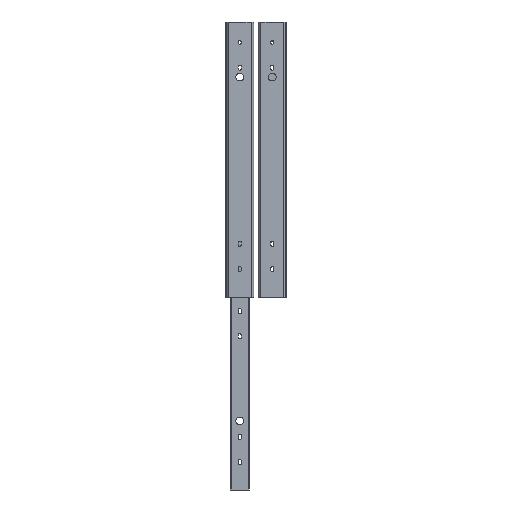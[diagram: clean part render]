
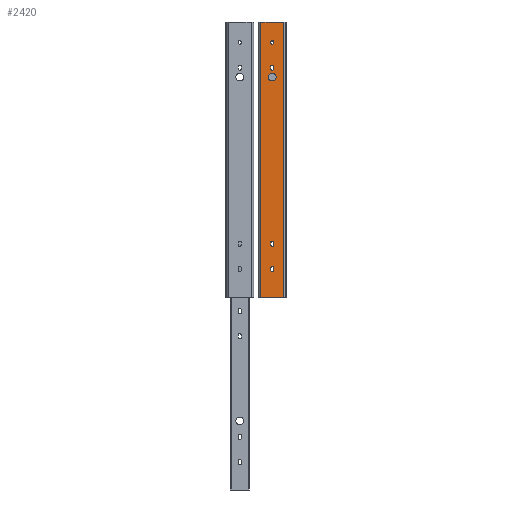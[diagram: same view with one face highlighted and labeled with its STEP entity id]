
A CAD part, front view. The second image highlights one B-rep face of the part: STEP entity #2420.
In plain terms, the highlighted planar face has unit normal (0, -1, 0).
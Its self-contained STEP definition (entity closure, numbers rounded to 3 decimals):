
#1138=CARTESIAN_POINT('',(-11.571,-7.153,-350.0));
#1139=VERTEX_POINT('',#1138);
#1140=CARTESIAN_POINT('',(17.429,-7.153,-350.0));
#1141=VERTEX_POINT('',#1140);
#1142=CARTESIAN_POINT('',(-11.571,-7.153,-350.0));
#1143=DIRECTION('',(1.0,0.0,0.0));
#1144=VECTOR('',#1143,29.0);
#1145=LINE('',#1142,#1144);
#1146=EDGE_CURVE('',#1139,#1141,#1145,.T.);
#1247=CARTESIAN_POINT('',(-11.571,-7.153,0.0));
#1248=VERTEX_POINT('',#1247);
#1249=CARTESIAN_POINT('',(-11.571,-7.153,0.0));
#1250=DIRECTION('',(0.0,0.0,-1.0));
#1251=VECTOR('',#1250,350.0);
#1252=LINE('',#1249,#1251);
#1253=EDGE_CURVE('',#1248,#1139,#1252,.T.);
#1482=CARTESIAN_POINT('',(17.429,-7.153,0.0));
#1483=VERTEX_POINT('',#1482);
#1490=CARTESIAN_POINT('',(17.429,-7.153,0.0));
#1491=DIRECTION('',(0.0,0.0,-1.0));
#1492=VECTOR('',#1491,350.0);
#1493=LINE('',#1490,#1492);
#1494=EDGE_CURVE('',#1483,#1141,#1493,.T.);
#1504=CARTESIAN_POINT('',(7.929,-7.153,-70.0));
#1505=VERTEX_POINT('',#1504);
#1506=CARTESIAN_POINT('',(2.929,-7.153,-70.0));
#1507=DIRECTION('',(0.0,1.0,0.0));
#1508=DIRECTION('',(-1.0,0.0,0.0));
#1509=AXIS2_PLACEMENT_3D('',#1506,#1507,#1508);
#1510=CIRCLE('',#1509,5.0);
#1511=EDGE_CURVE('',#1505,#1505,#1510,.T.);
#1532=CARTESIAN_POINT('',(0.779,-7.153,-315.1));
#1533=VERTEX_POINT('',#1532);
#1534=CARTESIAN_POINT('',(0.779,-7.153,-312.9));
#1535=VERTEX_POINT('',#1534);
#1536=CARTESIAN_POINT('',(0.779,-7.153,-315.1));
#1537=DIRECTION('',(0.0,0.0,1.0));
#1538=VECTOR('',#1537,2.2);
#1539=LINE('',#1536,#1538);
#1540=EDGE_CURVE('',#1533,#1535,#1539,.T.);
#1572=CARTESIAN_POINT('',(5.079,-7.153,-315.1));
#1573=VERTEX_POINT('',#1572);
#1574=CARTESIAN_POINT('',(2.929,-7.153,-315.1));
#1575=DIRECTION('',(0.0,1.0,0.0));
#1576=DIRECTION('',(-1.0,0.0,0.0));
#1577=AXIS2_PLACEMENT_3D('',#1574,#1575,#1576);
#1578=CIRCLE('',#1577,2.15);
#1579=EDGE_CURVE('',#1573,#1533,#1578,.T.);
#1605=CARTESIAN_POINT('',(5.079,-7.153,-312.9));
#1606=VERTEX_POINT('',#1605);
#1607=CARTESIAN_POINT('',(2.929,-7.153,-312.9));
#1608=DIRECTION('',(0.0,1.0,0.0));
#1609=DIRECTION('',(1.0,0.0,0.0));
#1610=AXIS2_PLACEMENT_3D('',#1607,#1608,#1609);
#1611=CIRCLE('',#1610,2.15);
#1612=EDGE_CURVE('',#1535,#1606,#1611,.T.);
#1638=CARTESIAN_POINT('',(5.079,-7.153,-283.1));
#1639=VERTEX_POINT('',#1638);
#1640=CARTESIAN_POINT('',(0.779,-7.153,-283.1));
#1641=VERTEX_POINT('',#1640);
#1642=CARTESIAN_POINT('',(2.929,-7.153,-283.1));
#1643=DIRECTION('',(0.0,1.0,0.0));
#1644=DIRECTION('',(-1.0,0.0,0.0));
#1645=AXIS2_PLACEMENT_3D('',#1642,#1643,#1644);
#1646=CIRCLE('',#1645,2.15);
#1647=EDGE_CURVE('',#1639,#1641,#1646,.T.);
#1680=CARTESIAN_POINT('',(0.779,-7.153,-280.9));
#1681=VERTEX_POINT('',#1680);
#1682=CARTESIAN_POINT('',(5.079,-7.153,-280.9));
#1683=VERTEX_POINT('',#1682);
#1684=CARTESIAN_POINT('',(2.929,-7.153,-280.9));
#1685=DIRECTION('',(0.0,1.0,0.0));
#1686=DIRECTION('',(1.0,0.0,0.0));
#1687=AXIS2_PLACEMENT_3D('',#1684,#1685,#1686);
#1688=CIRCLE('',#1687,2.15);
#1689=EDGE_CURVE('',#1681,#1683,#1688,.T.);
#1722=CARTESIAN_POINT('',(0.779,-7.153,-283.1));
#1723=DIRECTION('',(0.0,0.0,1.0));
#1724=VECTOR('',#1723,2.2);
#1725=LINE('',#1722,#1724);
#1726=EDGE_CURVE('',#1641,#1681,#1725,.T.);
#1744=CARTESIAN_POINT('',(0.779,-7.153,-59.1));
#1745=VERTEX_POINT('',#1744);
#1746=CARTESIAN_POINT('',(0.779,-7.153,-56.9));
#1747=VERTEX_POINT('',#1746);
#1748=CARTESIAN_POINT('',(0.779,-7.153,-59.1));
#1749=DIRECTION('',(0.0,0.0,1.0));
#1750=VECTOR('',#1749,2.2);
#1751=LINE('',#1748,#1750);
#1752=EDGE_CURVE('',#1745,#1747,#1751,.T.);
#1784=CARTESIAN_POINT('',(5.079,-7.153,-59.1));
#1785=VERTEX_POINT('',#1784);
#1786=CARTESIAN_POINT('',(2.929,-7.153,-59.1));
#1787=DIRECTION('',(0.0,1.0,0.0));
#1788=DIRECTION('',(-1.0,0.0,0.0));
#1789=AXIS2_PLACEMENT_3D('',#1786,#1787,#1788);
#1790=CIRCLE('',#1789,2.15);
#1791=EDGE_CURVE('',#1785,#1745,#1790,.T.);
#1817=CARTESIAN_POINT('',(5.079,-7.153,-56.9));
#1818=VERTEX_POINT('',#1817);
#1819=CARTESIAN_POINT('',(2.929,-7.153,-56.9));
#1820=DIRECTION('',(0.0,1.0,0.0));
#1821=DIRECTION('',(1.0,0.0,0.0));
#1822=AXIS2_PLACEMENT_3D('',#1819,#1820,#1821);
#1823=CIRCLE('',#1822,2.15);
#1824=EDGE_CURVE('',#1747,#1818,#1823,.T.);
#2262=CARTESIAN_POINT('',(-11.571,-7.153,0.0));
#2263=DIRECTION('',(1.0,0.0,0.0));
#2264=VECTOR('',#2263,29.0);
#2265=LINE('',#2262,#2264);
#2266=EDGE_CURVE('',#1248,#1483,#2265,.T.);
#2362=CARTESIAN_POINT('',(2.929,-7.153,0.0));
#2363=DIRECTION('',(0.0,-1.0,0.0));
#2364=DIRECTION('',(0.0,0.0,-1.0));
#2365=AXIS2_PLACEMENT_3D('',#2362,#2363,#2364);
#2366=PLANE('',#2365);
#2367=ORIENTED_EDGE('',*,*,#1146,.T.);
#2368=ORIENTED_EDGE('',*,*,#1494,.F.);
#2369=ORIENTED_EDGE('',*,*,#2266,.F.);
#2370=ORIENTED_EDGE('',*,*,#1253,.T.);
#2371=EDGE_LOOP('',(#2367,#2368,#2369,#2370));
#2372=FACE_OUTER_BOUND('',#2371,.T.);
#2373=ORIENTED_EDGE('',*,*,#1511,.T.);
#2374=EDGE_LOOP('',(#2373));
#2375=FACE_BOUND('',#2374,.T.);
#2376=ORIENTED_EDGE('',*,*,#1540,.T.);
#2377=ORIENTED_EDGE('',*,*,#1612,.T.);
#2378=CARTESIAN_POINT('',(5.079,-7.153,-312.9));
#2379=DIRECTION('',(0.0,0.0,-1.0));
#2380=VECTOR('',#2379,2.2);
#2381=LINE('',#2378,#2380);
#2382=EDGE_CURVE('',#1606,#1573,#2381,.T.);
#2383=ORIENTED_EDGE('',*,*,#2382,.T.);
#2384=ORIENTED_EDGE('',*,*,#1579,.T.);
#2385=EDGE_LOOP('',(#2376,#2377,#2383,#2384));
#2386=FACE_BOUND('',#2385,.T.);
#2387=ORIENTED_EDGE('',*,*,#1791,.T.);
#2388=ORIENTED_EDGE('',*,*,#1752,.T.);
#2389=ORIENTED_EDGE('',*,*,#1824,.T.);
#2390=CARTESIAN_POINT('',(5.079,-7.153,-56.9));
#2391=DIRECTION('',(0.0,0.0,-1.0));
#2392=VECTOR('',#2391,2.2);
#2393=LINE('',#2390,#2392);
#2394=EDGE_CURVE('',#1818,#1785,#2393,.T.);
#2395=ORIENTED_EDGE('',*,*,#2394,.T.);
#2396=EDGE_LOOP('',(#2387,#2388,#2389,#2395));
#2397=FACE_BOUND('',#2396,.T.);
#2398=CARTESIAN_POINT('',(5.079,-7.153,-26.));
#2399=VERTEX_POINT('',#2398);
#2400=CARTESIAN_POINT('',(2.929,-7.153,-26.));
#2401=DIRECTION('',(0.0,1.0,0.0));
#2402=DIRECTION('',(-1.0,0.0,0.0));
#2403=AXIS2_PLACEMENT_3D('',#2400,#2401,#2402);
#2404=CIRCLE('',#2403,2.15);
#2405=EDGE_CURVE('',#2399,#2399,#2404,.T.);
#2406=ORIENTED_EDGE('',*,*,#2405,.T.);
#2407=EDGE_LOOP('',(#2406));
#2408=FACE_BOUND('',#2407,.T.);
#2409=ORIENTED_EDGE('',*,*,#1647,.T.);
#2410=ORIENTED_EDGE('',*,*,#1726,.T.);
#2411=ORIENTED_EDGE('',*,*,#1689,.T.);
#2412=CARTESIAN_POINT('',(5.079,-7.153,-280.9));
#2413=DIRECTION('',(0.0,0.0,-1.0));
#2414=VECTOR('',#2413,2.2);
#2415=LINE('',#2412,#2414);
#2416=EDGE_CURVE('',#1683,#1639,#2415,.T.);
#2417=ORIENTED_EDGE('',*,*,#2416,.T.);
#2418=EDGE_LOOP('',(#2409,#2410,#2411,#2417));
#2419=FACE_BOUND('',#2418,.T.);
#2420=ADVANCED_FACE('',(#2372,#2375,#2386,#2397,#2408,#2419),#2366,.T.);
